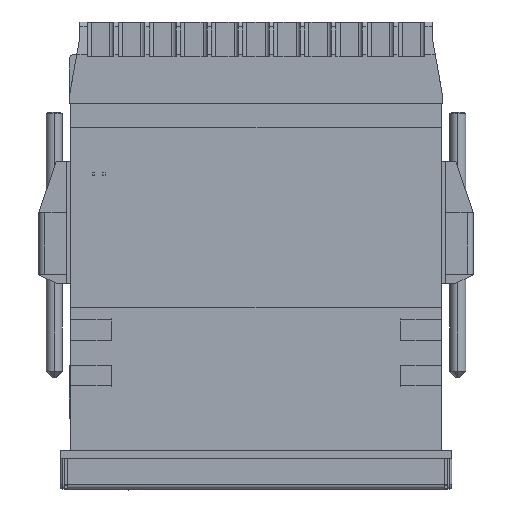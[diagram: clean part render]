
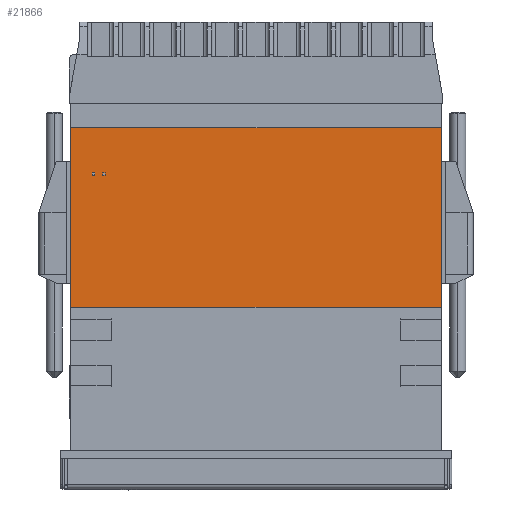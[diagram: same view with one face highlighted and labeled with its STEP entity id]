
A CAD part, top view. The second image highlights one B-rep face of the part: STEP entity #21866.
In plain terms, the highlighted planar face has unit normal (0, 0, 1) as drawn and (0, 0, -1) by its records, which use the part's own axes.
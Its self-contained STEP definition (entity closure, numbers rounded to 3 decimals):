
#15430=DIRECTION('',(0.,1.,0.));
#15431=VECTOR('',#15430,44.);
#15432=CARTESIAN_POINT('',(-45.5,6.,-21.8));
#15433=LINE('',#15432,#15431);
#16706=DIRECTION('',(0.,1.,0.));
#16707=VECTOR('',#16706,44.);
#16708=CARTESIAN_POINT('',(45.5,6.,-21.8));
#16709=LINE('',#16708,#16707);
#17175=DIRECTION('',(-1.,0.,0.));
#17176=VECTOR('',#17175,91.);
#17177=CARTESIAN_POINT('',(45.5,6.,-21.8));
#17178=LINE('',#17177,#17176);
#17182=DIRECTION('',(1.,0.,0.));
#17183=VECTOR('',#17182,91.);
#17184=CARTESIAN_POINT('',(-45.5,50.,-21.8));
#17185=LINE('',#17184,#17183);
#20064=CARTESIAN_POINT('',(-45.5,6.,-21.8));
#20065=CARTESIAN_POINT('',(-45.5,50.,-21.8));
#20066=VERTEX_POINT('',#20064);
#20067=VERTEX_POINT('',#20065);
#20072=CARTESIAN_POINT('',(45.5,6.,-21.8));
#20073=CARTESIAN_POINT('',(45.5,50.,-21.8));
#20074=VERTEX_POINT('',#20072);
#20075=VERTEX_POINT('',#20073);
#21854=CARTESIAN_POINT('',(0.,0.,-21.8));
#21855=DIRECTION('',(0.,0.,-1.));
#21856=DIRECTION('',(0.,1.,0.));
#21857=AXIS2_PLACEMENT_3D('',#21854,#21855,#21856);
#21858=PLANE('',#21857);
#21859=ORIENTED_EDGE('',*,*,#20745,.F.);
#21860=ORIENTED_EDGE('',*,*,#21849,.F.);
#21861=ORIENTED_EDGE('',*,*,#21487,.T.);
#21863=ORIENTED_EDGE('',*,*,#21862,.F.);
#21864=EDGE_LOOP('',(#21859,#21860,#21861,#21863));
#21865=FACE_OUTER_BOUND('',#21864,.F.);
#20745=EDGE_CURVE('',#20066,#20067,#15433,.T.);
#21487=EDGE_CURVE('',#20074,#20075,#16709,.T.);
#21849=EDGE_CURVE('',#20074,#20066,#17178,.T.);
#21862=EDGE_CURVE('',#20067,#20075,#17185,.T.);
#21866=ADVANCED_FACE('',(#21865),#21858,.T.);
